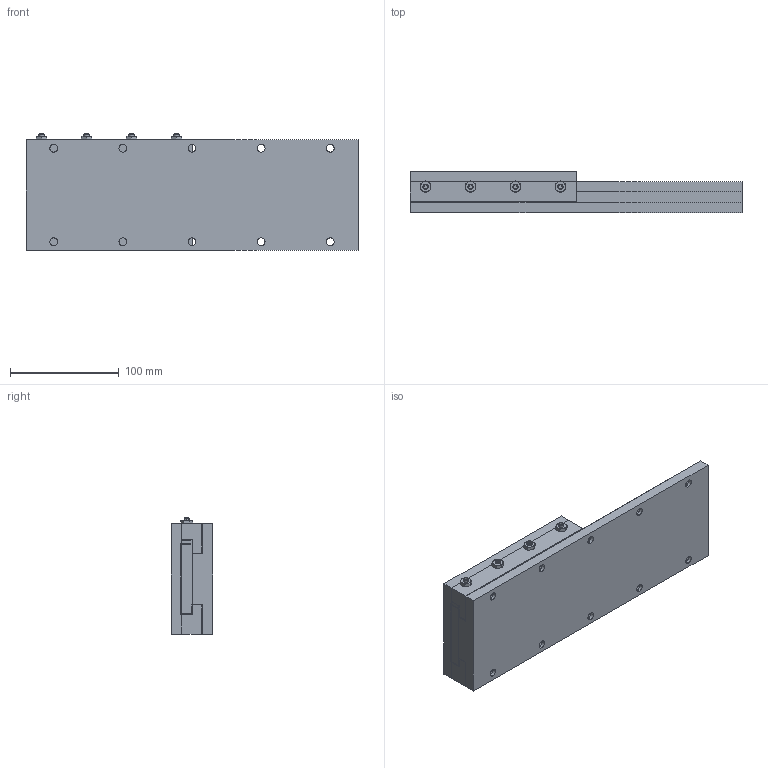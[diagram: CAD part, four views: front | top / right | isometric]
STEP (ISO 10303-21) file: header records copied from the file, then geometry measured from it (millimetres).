
FILE_DESCRIPTION (( 'STEP AP214' ), '1' );
FILE_NAME ('SW04-SL06-BL12.STEP', '2010-10-04T17:47:21', ( ' ' ), ( '' ), 'SwSTEP 2.0', 'SolidWorks 2010', '' );
FILE_SCHEMA (( 'AUTOMOTIVE_DESIGN' ));
Length unit declared in the file: inch
Products named in the file (11): SW04-SL06-BL12; Gen2 Hardplate_04x12 HPLATE; Gen2 Baseplate_04x12 BASE; Gen2 BASE_04x12 BASE; Gen2 Gib_04x06 GIB; Gen2 Top plate_04x06 TPLATE; Gen2 SADDLE_04x06 SADDLE; _MSHXNUT_MSHXNUT 0.190-32-D-N; Gen2 Bar_04x06 BAR; Gen2 Adj Gib_04x06 ADJ GIB; _SSCUPSOC_SSCUPSKT 0.19-32x0.875-HX-N
Assembly tree (16 placements, depth 3):
  SW04-SL06-BL12
    Gen2 SADDLE_04x06 SADDLE
      _MSHXNUT_MSHXNUT 0.190-32-D-N  x4
      Gen2 Gib_04x06 GIB
      _SSCUPSOC_SSCUPSKT 0.19-32x0.875-HX-N  x4
      Gen2 Adj Gib_04x06 ADJ GIB
      Gen2 Top plate_04x06 TPLATE
      Gen2 Bar_04x06 BAR
    Gen2 BASE_04x12 BASE
      Gen2 Hardplate_04x12 HPLATE
      Gen2 Baseplate_04x12 BASE
Bounding box: 304.8 x 38.1 x 107.16 mm (x, y, z)
Volume: 880924.8 mm3; surface area: 230327 mm2
Topology: 19 solids, 19 shells, 332 faces, 744 edges, 460 vertices
Faces by surface type: plane 156, cylinder 88, cone 88
Entity records: 6551 total; most frequent: CARTESIAN_POINT 1090, DIRECTION 1030, ORIENTED_EDGE 908, EDGE_CURVE 454, AXIS2_PLACEMENT_3D 379, VERTEX_POINT 295, LINE 272, VECTOR 272
